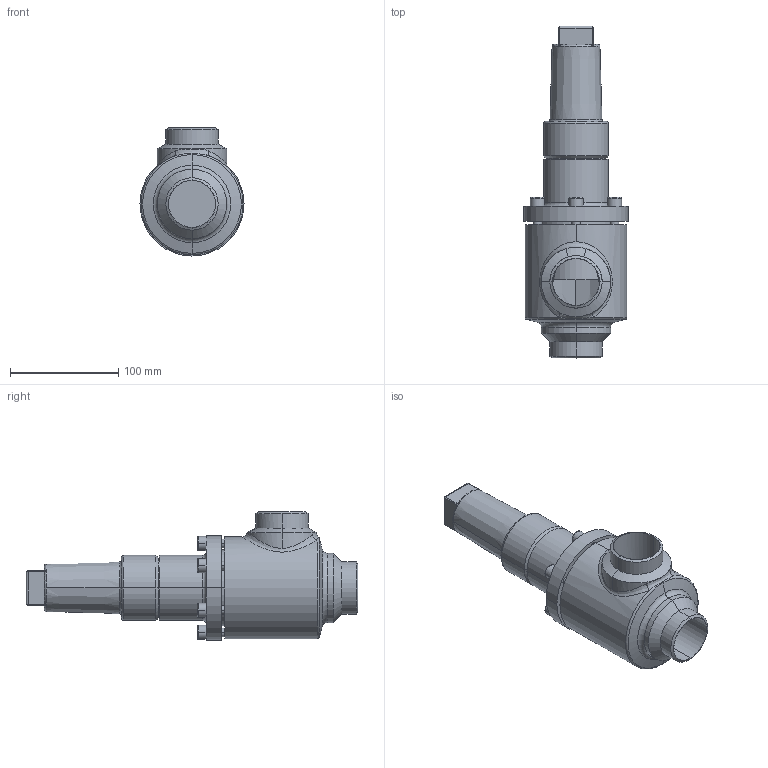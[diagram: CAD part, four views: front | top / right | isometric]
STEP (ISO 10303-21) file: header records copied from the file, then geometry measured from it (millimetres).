
FILE_DESCRIPTION (( 'STEP AP214' ), '1' );
FILE_NAME ('RVAK27400D14-DN040_R1_PS40.STEP', '2006-04-27T14:01:18', ( 'Herr Grams' ), ( 'AWP GmbH' ), 'SwSTEP 2.0', 'SolidWorks 2002296', '' );
FILE_SCHEMA (( 'AUTOMOTIVE_DESIGN' ));
Length unit declared in the file: millimetre
Products named in the file (6): RVAK27400D14-DN040_R1_PS40; RVA29300E15_Deck-Schr-DN40-50_Standard; Zylinderschraube-DIN912_M 8x 25; Deckel29300E15-DN40-50_Standard; Kappe16402_DN040-65_Standard; Gehäuse16400-DN040_Standard
Assembly tree (10 placements, depth 3):
  RVAK27400D14-DN040_R1_PS40
    Kappe16402_DN040-65_Standard
    Gehäuse16400-DN040_Standard
    RVA29300E15_Deck-Schr-DN40-50_Standard
      Deckel29300E15-DN40-50_Standard
      Zylinderschraube-DIN912_M 8x 25  x6
Bounding box: 96 x 306 x 118 mm (x, y, z)
Volume: 909921.6 mm3; surface area: 152748 mm2
Topology: 9 solids, 9 shells, 241 faces, 533 edges, 334 vertices
Faces by surface type: plane 91, cylinder 87, cone 33, torus 27, bspline 3
Entity records: 14437 total; most frequent: CARTESIAN_POINT 10455, DIRECTION 797, ORIENTED_EDGE 686, EDGE_CURVE 343, AXIS2_PLACEMENT_3D 339, VERTEX_POINT 214, EDGE_LOOP 181, CIRCLE 177
